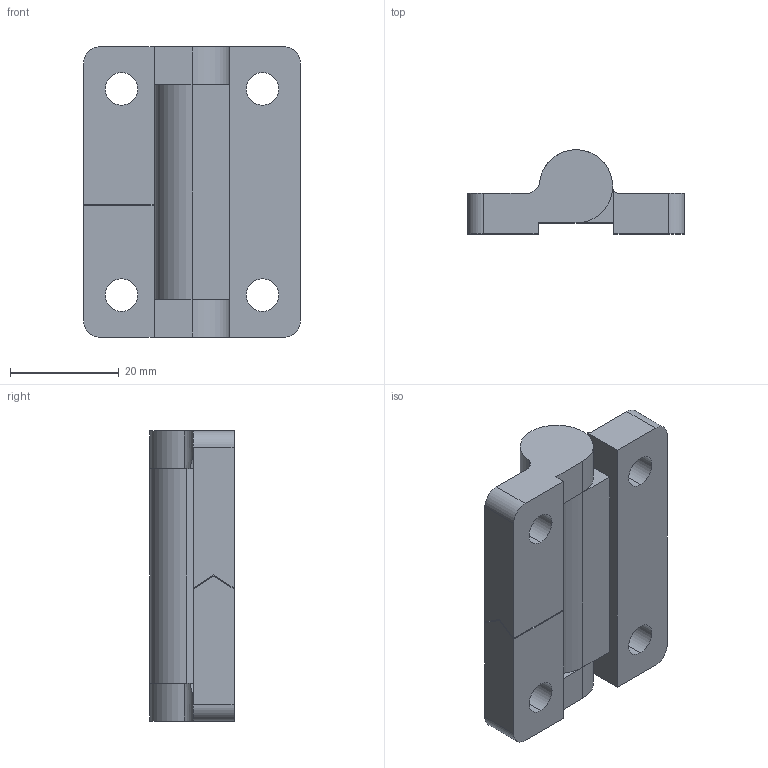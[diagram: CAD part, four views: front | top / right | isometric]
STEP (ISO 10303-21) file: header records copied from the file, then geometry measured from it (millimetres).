
FILE_DESCRIPTION (( 'STEP AP203' ), '1' );
FILE_NAME ('XG11-123.STEP', '2025-04-16T02:59:45', ( '微软用户' ), ( '微软中国' ), 'SwSTEP 2.0', 'SolidWorks 2024', '' );
FILE_SCHEMA (( 'CONFIG_CONTROL_DESIGN' ));
Length unit declared in the file: millimetre
Products named in the file (3): XG11-123; XG11-123-1-55-1; XG11-123-1-55-2
Assembly tree (2 placements, depth 2):
  XG11-123
    XG11-123-1-55-1
    XG11-123-1-55-2
Bounding box: 40 x 15.5 x 53.5 mm (x, y, z)
Volume: 17477.6 mm3; surface area: 7978.3 mm2
Topology: 3 solids, 3 shells, 57 faces, 153 edges, 98 vertices
Faces by surface type: plane 27, cylinder 22, cone 8
Entity records: 2130 total; most frequent: CARTESIAN_POINT 345, DIRECTION 329, ORIENTED_EDGE 306, EDGE_CURVE 153, AXIS2_PLACEMENT_3D 118, VERTEX_POINT 98, LINE 93, VECTOR 93
